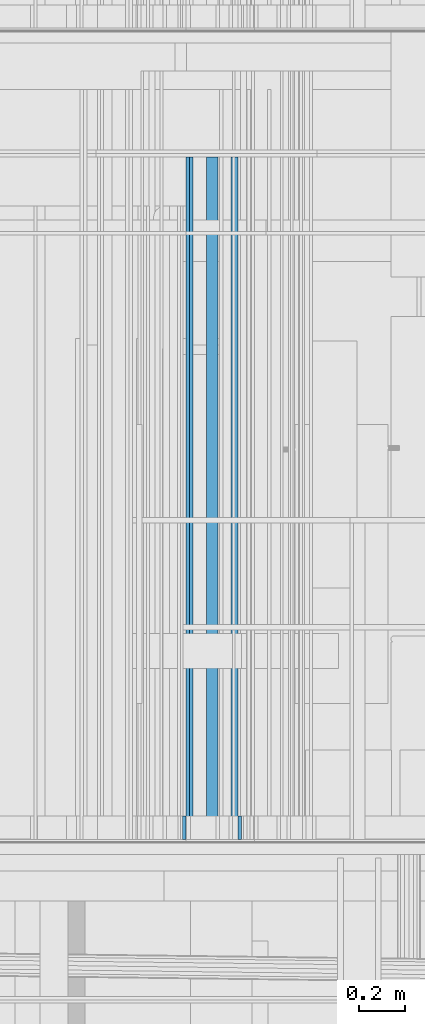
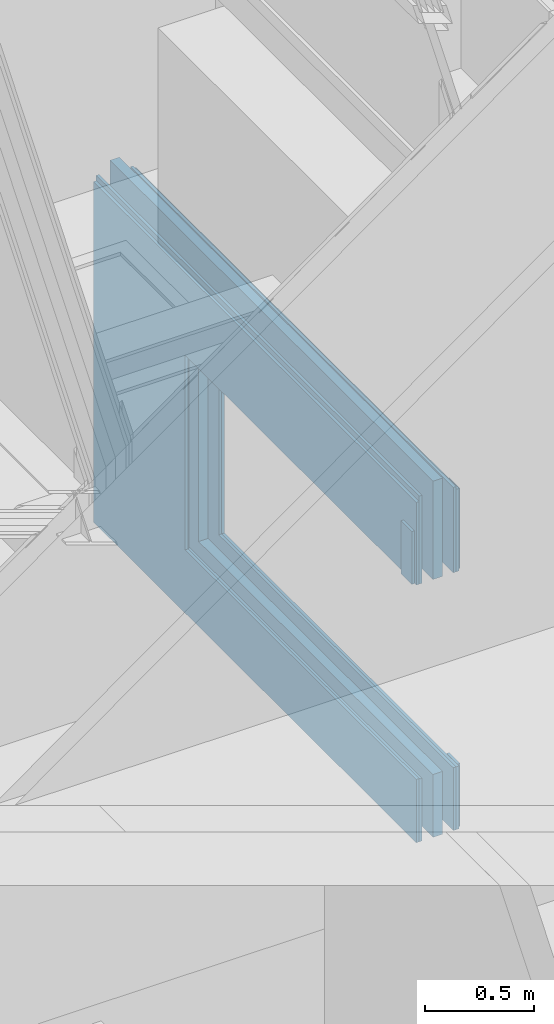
# One storey, part 66 of 583: 7 building element parts, 2 openings, 1 element without a shape of its own.
"""IFC2X3 building model written with IfcOpenShell, lengths in metres."""

from ifc_helpers import new_model, entity, si_unit, converted_unit, derived_unit, money_unit, direction, frame, frame_2d, origin_with_axes, place, context, subcontext, project, spatial, rectangle, extrude, material, type_object, element, aggregate, save


model = new_model("IFC2X3")

# Units and contexts
model_context = context("Model", 3, precision=1e-05, world=origin_with_axes(), true_north=direction((0.0, 1.0)))
body_context = subcontext(model_context, "Body", "Model", "MODEL_VIEW", scale=1.0)
ifc_project = project(units=[si_unit("LENGTHUNIT", "METRE"), si_unit("AREAUNIT", "SQUARE_METRE"), si_unit("VOLUMEUNIT", "CUBIC_METRE"), si_unit("ABSORBEDDOSEUNIT", "GRAY"), si_unit("AMOUNTOFSUBSTANCEUNIT", "MOLE"), si_unit("DOSEEQUIVALENTUNIT", "SIEVERT"), si_unit("ELECTRICCAPACITANCEUNIT", "FARAD"), si_unit("ELECTRICCHARGEUNIT", "COULOMB"), si_unit("ELECTRICCONDUCTANCEUNIT", "SIEMENS"), si_unit("ELECTRICCURRENTUNIT", "AMPERE"), si_unit("ELECTRICRESISTANCEUNIT", "OHM"), si_unit("ELECTRICVOLTAGEUNIT", "VOLT"), si_unit("ENERGYUNIT", "JOULE"), si_unit("FORCEUNIT", "NEWTON"), si_unit("FREQUENCYUNIT", "HERTZ"), si_unit("ILLUMINANCEUNIT", "LUX"), si_unit("INDUCTANCEUNIT", "HENRY"), si_unit("LUMINOUSFLUXUNIT", "LUMEN"), si_unit("LUMINOUSINTENSITYUNIT", "CANDELA"), si_unit("MAGNETICFLUXDENSITYUNIT", "TESLA"), si_unit("MAGNETICFLUXUNIT", "WEBER"), si_unit("MASSUNIT", "GRAM"), converted_unit("PLANEANGLEUNIT", "degree", entity("IfcReal", 0.0174532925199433), si_unit("PLANEANGLEUNIT", "RADIAN"), dimensions=[0, 0, 0, 0, 0, 0, 0]), si_unit("POWERUNIT", "WATT"), si_unit("PRESSUREUNIT", "PASCAL"), si_unit("RADIOACTIVITYUNIT", "BECQUEREL"), si_unit("SOLIDANGLEUNIT", "STERADIAN"), si_unit("THERMODYNAMICTEMPERATUREUNIT", "KELVIN"), si_unit("TIMEUNIT", "SECOND"), derived_unit("ACCELERATIONUNIT", [(si_unit("LENGTHUNIT", "METRE"), 1), (si_unit("TIMEUNIT", "SECOND"), -2)]), derived_unit("ANGULARVELOCITYUNIT", [(converted_unit("PLANEANGLEUNIT", "degree", entity("IfcReal", 0.0174532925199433), si_unit("PLANEANGLEUNIT", "RADIAN"), dimensions=[0, 0, 0, 0, 0, 0, 0]), 1), (si_unit("TIMEUNIT", "SECOND"), -1)]), derived_unit("CURVATUREUNIT", [(converted_unit("PLANEANGLEUNIT", "degree", entity("IfcReal", 0.0174532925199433), si_unit("PLANEANGLEUNIT", "RADIAN"), dimensions=[0, 0, 0, 0, 0, 0, 0]), 1), (si_unit("LENGTHUNIT", "METRE"), -1)]), derived_unit("DYNAMICVISCOSITYUNIT", [(si_unit("PRESSUREUNIT", "PASCAL"), 1), (si_unit("TIMEUNIT", "SECOND"), 1)]), derived_unit("HEATFLUXDENSITYUNIT", [(si_unit("POWERUNIT", "WATT"), 1), (si_unit("LENGTHUNIT", "METRE"), -2)]), derived_unit("HEATINGVALUEUNIT", [(si_unit("ENERGYUNIT", "JOULE"), 1), (si_unit("MASSUNIT", "GRAM"), -1)]), derived_unit("INTEGERCOUNTRATEUNIT", [(si_unit("TIMEUNIT", "SECOND"), -1)]), derived_unit("IONCONCENTRATIONUNIT", [(si_unit("MASSUNIT", "GRAM"), 1), (si_unit("VOLUMEUNIT", "CUBIC_METRE"), -1)]), derived_unit("ISOTHERMALMOISTURECAPACITYUNIT", [(si_unit("VOLUMEUNIT", "CUBIC_METRE"), 1), (si_unit("MASSUNIT", "GRAM"), -1)]), derived_unit("KINEMATICVISCOSITYUNIT", [(si_unit("AREAUNIT", "SQUARE_METRE"), 1), (si_unit("TIMEUNIT", "SECOND"), -1)]), derived_unit("LINEARFORCEUNIT", [(si_unit("FORCEUNIT", "NEWTON"), 1), (si_unit("LENGTHUNIT", "METRE"), -1)]), derived_unit("LINEARMOMENTUNIT", [(si_unit("FORCEUNIT", "NEWTON"), 1), (si_unit("LENGTHUNIT", "METRE"), -1)]), derived_unit("LINEARSTIFFNESSUNIT", [(si_unit("FORCEUNIT", "NEWTON"), 1), (si_unit("LENGTHUNIT", "METRE"), -1)]), derived_unit("LINEARVELOCITYUNIT", [(si_unit("LENGTHUNIT", "METRE"), 1), (si_unit("TIMEUNIT", "SECOND"), -1)]), derived_unit("LUMINOUSINTENSITYDISTRIBUTIONUNIT", [(si_unit("LUMINOUSINTENSITYUNIT", "CANDELA"), 1), (si_unit("LUMINOUSFLUXUNIT", "LUMEN"), -1)]), derived_unit("MASSDENSITYUNIT", [(si_unit("MASSUNIT", "GRAM"), 1), (si_unit("VOLUMEUNIT", "CUBIC_METRE"), -1)]), derived_unit("MASSFLOWRATEUNIT", [(si_unit("MASSUNIT", "GRAM"), 1), (si_unit("TIMEUNIT", "SECOND"), -1)]), derived_unit("MASSPERLENGTHUNIT", [(si_unit("MASSUNIT", "GRAM"), 1), (si_unit("LENGTHUNIT", "METRE"), -1)]), derived_unit("MODULUSOFELASTICITYUNIT", [(si_unit("FORCEUNIT", "NEWTON"), 1), (si_unit("AREAUNIT", "SQUARE_METRE"), -1)]), derived_unit("MODULUSOFLINEARSUBGRADEREACTIONUNIT", [(si_unit("FORCEUNIT", "NEWTON"), 1), (si_unit("LENGTHUNIT", "METRE"), -2)]), derived_unit("MODULUSOFROTATIONALSUBGRADEREACTIONUNIT", [(si_unit("FORCEUNIT", "NEWTON"), 1), (si_unit("LENGTHUNIT", "METRE"), 1)]), derived_unit("MODULUSOFSUBGRADEREACTIONUNIT", [(si_unit("FORCEUNIT", "NEWTON"), 1), (si_unit("VOLUMEUNIT", "CUBIC_METRE"), -1)]), derived_unit("MOISTUREDIFFUSIVITYUNIT", [(si_unit("VOLUMEUNIT", "CUBIC_METRE"), 1), (si_unit("TIMEUNIT", "SECOND"), -1)]), derived_unit("MOLECULARWEIGHTUNIT", [(si_unit("MASSUNIT", "GRAM"), 1), (si_unit("AMOUNTOFSUBSTANCEUNIT", "MOLE"), -1)]), derived_unit("PLANARFORCEUNIT", [(si_unit("FORCEUNIT", "NEWTON"), 1), (si_unit("LENGTHUNIT", "METRE"), -2)]), derived_unit("ROTATIONALFREQUENCYUNIT", [(si_unit("TIMEUNIT", "SECOND"), -1)]), derived_unit("ROTATIONALMASSUNIT", [(si_unit("MASSUNIT", "GRAM"), 1), (si_unit("LENGTHUNIT", "METRE"), 2)]), derived_unit("ROTATIONALSTIFFNESSUNIT", [(si_unit("FORCEUNIT", "NEWTON"), 1), (si_unit("LENGTHUNIT", "METRE"), 1), (converted_unit("PLANEANGLEUNIT", "degree", entity("IfcReal", 0.0174532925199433), si_unit("PLANEANGLEUNIT", "RADIAN"), dimensions=[0, 0, 0, 0, 0, 0, 0]), -1)]), derived_unit("SECTIONAREAINTEGRALUNIT", [(si_unit("LENGTHUNIT", "METRE"), 5)]), derived_unit("SECTIONMODULUSUNIT", [(si_unit("LENGTHUNIT", "METRE"), 3)]), derived_unit("SHEARMODULUSUNIT", [(si_unit("FORCEUNIT", "NEWTON"), 1), (si_unit("AREAUNIT", "SQUARE_METRE"), -1)]), derived_unit("SOUNDPOWERUNIT", [(si_unit("ENERGYUNIT", "JOULE"), 1), (si_unit("TIMEUNIT", "SECOND"), -1)]), derived_unit("SPECIFICHEATCAPACITYUNIT", [(si_unit("FORCEUNIT", "NEWTON"), 1), (si_unit("MASSUNIT", "GRAM"), -1), (si_unit("THERMODYNAMICTEMPERATUREUNIT", "KELVIN"), -1)]), derived_unit("TEMPERATUREGRADIENTUNIT", [(si_unit("THERMODYNAMICTEMPERATUREUNIT", "KELVIN"), 1), (si_unit("LENGTHUNIT", "METRE"), -1)]), derived_unit("THERMALADMITTANCEUNIT", [(si_unit("POWERUNIT", "WATT"), 1), (si_unit("AREAUNIT", "SQUARE_METRE"), -1), (si_unit("THERMODYNAMICTEMPERATUREUNIT", "KELVIN"), -1)]), derived_unit("THERMALCONDUCTANCEUNIT", [(si_unit("POWERUNIT", "WATT"), 1), (si_unit("LENGTHUNIT", "METRE"), -1), (si_unit("THERMODYNAMICTEMPERATUREUNIT", "KELVIN"), -1)]), derived_unit("THERMALEXPANSIONCOEFFICIENTUNIT", [(si_unit("THERMODYNAMICTEMPERATUREUNIT", "KELVIN"), -1)]), derived_unit("THERMALRESISTANCEUNIT", [(si_unit("AREAUNIT", "SQUARE_METRE"), 1), (si_unit("POWERUNIT", "WATT"), -1)]), derived_unit("THERMALTRANSMITTANCEUNIT", [(si_unit("POWERUNIT", "WATT"), 1), (si_unit("AREAUNIT", "SQUARE_METRE"), -1), (si_unit("THERMODYNAMICTEMPERATUREUNIT", "KELVIN"), -1)]), derived_unit("TORQUEUNIT", [(si_unit("FORCEUNIT", "NEWTON"), 1), (si_unit("LENGTHUNIT", "METRE"), 1)]), derived_unit("VAPORPERMEABILITYUNIT", [(si_unit("MASSUNIT", "GRAM"), 1), (si_unit("TIMEUNIT", "SECOND"), -1)]), derived_unit("VOLUMETRICFLOWRATEUNIT", [(si_unit("VOLUMEUNIT", "CUBIC_METRE"), 1), (si_unit("TIMEUNIT", "SECOND"), -1)]), derived_unit("WARPINGCONSTANTUNIT", [(si_unit("LENGTHUNIT", "METRE"), 6)]), derived_unit("WARPINGMOMENTUNIT", [(si_unit("FORCEUNIT", "NEWTON"), 1), (si_unit("LENGTHUNIT", "METRE"), 2)]), money_unit("GBP")], contexts=[model_context])

# Site, building, storey
site_placement = place(None, origin_with_axes())
site = spatial("IfcSite", under=ifc_project, at=site_placement, Name="Site", CompositionType="ELEMENT")
building_placement = place(site_placement, origin_with_axes())
building = spatial("IfcBuilding", under=site, at=building_placement, Name="Building01", CompositionType="ELEMENT")
storey_placement = place(building_placement, frame((0.0, 0.0, 20.78), z_axis=(0.0, 0.0, 1.0), x_axis=(1.0, 0.0, 0.0)))
storey = spatial("IfcBuildingStorey", under=building, at=storey_placement, Name="RL", CompositionType="ELEMENT", Elevation=20.78)

# Wall, openings, building element parts
wall_type = type_object("IfcWallType", Name="SHE_A-Walls_Type01c_Partywall_225mm_twin_tall", PredefinedType="NOTDEFINED")
wall_placement = place(storey_placement, frame((6.793, 5.15, -2.78), z_axis=(0.0, 1.0, 0.0), x_axis=(0.0, 0.0, 1.0)))
wall = element("IfcWall", 1, at=wall_placement, inside=storey, type_object=wall_type, Name="1C", ObjectType="SHE_A-Walls_Type01c_Partywall_225mm_twin_tall")
opening_1_placement = place(wall_placement, frame((0.353, -0.313, -0.03), z_axis=(0.0, 0.0, 1.0), x_axis=(1.0, 0.0, 0.0)))
element("IfcOpeningElement", 2, at=opening_1_placement, cuts=wall, Name="Opening", ObjectType="Opening", context=body_context, shape_type="SweptSolid", body=[
    extrude(rectangle(XDim=2.142, YDim=1.084, at=frame_2d((-0.542, 1.071), x_axis=(0.0, -1.0))), frame((0.0, -0.5445, 0.0), z_axis=(0.0, 1.0, 0.0), x_axis=(-1.0, 0.0, 0.0)), (0.0, 0.0, 1.0), 1.089),
])
opening_2_placement = place(wall_placement, frame((0.35, 0.137, 0.0), z_axis=(0.0, 0.0, 1.0), x_axis=(1.0, 0.0, 0.0)))
element("IfcOpeningElement", 3, at=opening_2_placement, cuts=wall, Name="Opening", ObjectType="Opening", context=body_context, shape_type="SweptSolid", body=[
    extrude(rectangle(XDim=2.142, YDim=1.084, at=frame_2d((-0.542, 1.071), x_axis=(0.0, -1.0))), frame((0.0, -0.2055, 0.0), z_axis=(0.0, 1.0, 0.0), x_axis=(-1.0, 0.0, 0.0)), (0.0, 0.0, 1.0), 0.411),
])
ifc_material_1 = material(Name="A_BSUK_Insulation")
placement = place(wall_placement, origin_with_axes())
building_element_part_1 = element("IfcBuildingElementPart", 4, at=placement, material=ifc_material_1, Name="1", context=body_context, shape_type="SweptSolid", body=[
    extrude(rectangle(XDim=1.985661, YDim=0.05, at=frame_2d((0.992831, 0.025), x_axis=(-1.0, 0.0))), origin_with_axes(), (0.0, 0.0, 1.0), 2.95),
])
ifc_material_2 = material(Name="A_BSUK_Walls_Timber")
building_element_part_2 = element("IfcBuildingElementPart", 5, at=placement, material=ifc_material_2, Name="2", context=body_context, shape_type="SweptSolid", body=[
    extrude(rectangle(XDim=1.882661, YDim=0.015, at=frame_2d((0.941331, 0.1445), x_axis=(-1.0, 0.0))), frame((0.0, 0.0, 0.015), z_axis=(0.0, 0.0, 1.0), x_axis=(1.0, 0.0, 0.0)), (0.0, 0.0, 1.0), 0.1),
])
ifc_material_3 = material(Name="A_BSUK_WallInternal_Finishes_Plasterboard")
building_element_part_3 = element("IfcBuildingElementPart", 6, at=placement, material=ifc_material_3, Name="3", context=body_context, shape_type="SweptSolid", body=[
    extrude(rectangle(XDim=1.897661, YDim=0.015, at=frame_2d((0.948831, 0.1295), x_axis=(-1.0, 0.0))), origin_with_axes(), (0.0, 0.0, 1.0), 2.95),
])
building_element_part_4 = element("IfcBuildingElementPart", 7, at=placement, material=ifc_material_3, Name="4", context=body_context, shape_type="SweptSolid", body=[
    extrude(rectangle(XDim=1.912661, YDim=0.015, at=frame_2d((0.956331, 0.1145), x_axis=(-1.0, 0.0))), origin_with_axes(), (0.0, 0.0, 1.0), 2.95),
])
building_element_part_5 = element("IfcBuildingElementPart", 8, at=placement, material=ifc_material_3, Name="5", context=body_context, shape_type="SweptSolid", body=[
    extrude(rectangle(XDim=1.927661, YDim=0.015, at=frame_2d((0.963831, -0.0655), x_axis=(-1.0, 0.0))), origin_with_axes(), (0.0, 0.0, 1.0), 2.95),
])
building_element_part_6 = element("IfcBuildingElementPart", 9, at=placement, material=ifc_material_3, Name="6", context=body_context, shape_type="SweptSolid", body=[
    extrude(rectangle(XDim=1.897661, YDim=0.015, at=frame_2d((0.948831, -0.0805), x_axis=(-1.0, 0.0))), origin_with_axes(), (0.0, 0.0, 1.0), 2.95),
])
building_element_part_7 = element("IfcBuildingElementPart", 10, at=placement, material=ifc_material_2, Name="7", context=body_context, shape_type="SweptSolid", body=[
    extrude(rectangle(XDim=0.401969, YDim=0.015, at=frame_2d((1.529984, -0.0955), x_axis=(-1.0, 0.0))), frame((0.0, 0.0, 0.015), z_axis=(0.0, 0.0, 1.0), x_axis=(1.0, 0.0, 0.0)), (0.0, 0.0, 1.0), 0.1),
])
aggregate(wall, [building_element_part_1, building_element_part_2, building_element_part_3, building_element_part_4, building_element_part_5, building_element_part_6, building_element_part_7])

save(model, "model.ifc")
